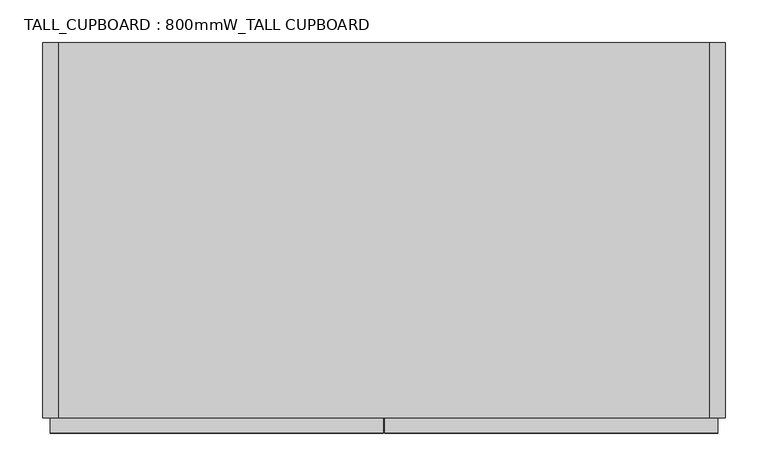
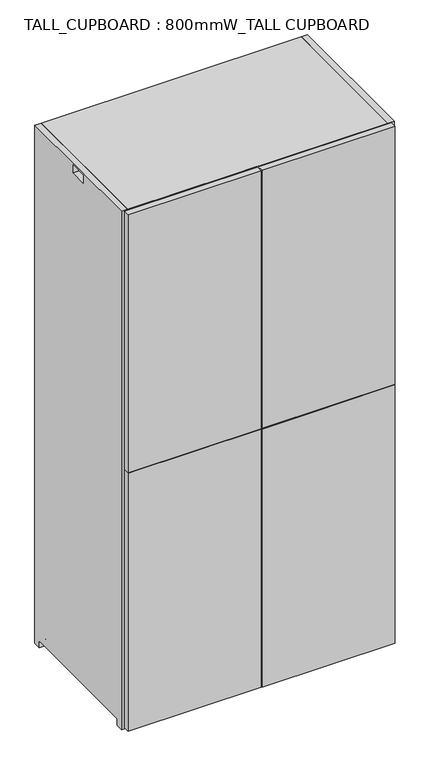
"""IFC4 building model written with IfcOpenShell, lengths in millimetres: furniture geometry, TALL_CUPBOARD : 800mmW_TALL CUPBOARD."""

from ifc_helpers import new_model, si_unit, point, frame, frame_2d, origin, place, context, project, spatial, polyline, circle_curve, trimmed, segment, composite_curve, outline, extrude, source, transform, mapped, element, save
from ifc_brep_helpers import plane_surface, revolved_surface, advanced_brep


def tall_cupboard_800mmw_tall_cupboard_b3f6e6b7(model_context):
    return source(origin(), model_context, "Body", "SolidModel", [
        extrude(outline(composite_curve([segment(polyline([(-220.0, 1605.0), (220.0, 1605.0), (220.0, 0.0), (198.0, 0.0), (198.0, 17.0)]), True, "CONTINUOUS"), segment(trimmed(circle_curve(frame_2d((194.0, 17.0)), 4.0), [point((198.0, 17.0))], [point((194.0, 21.0))], True, "CARTESIAN"), True, "CONTINUOUS"), segment(polyline([(194.0, 21.0), (-194.0, 21.0)]), True, "CONTINUOUS"), segment(trimmed(circle_curve(frame_2d((-194.0, 17.0)), 4.0), [point((-194.0, 21.0))], [point((-198.0, 17.0))], True, "CARTESIAN"), True, "CONTINUOUS"), segment(polyline([(-198.0, 17.0), (-198.0, 0.0), (-220.0, 0.0), (-220.0, 1605.0)]), True, "CONTINUOUS")], self_intersect=False), holes=[polyline([(-26.0, 1600.0), (-26.0, 1575.0), (26.0, 1575.0), (26.0, 1600.0), (-26.0, 1600.0)])]), frame((-400.0, 0.0, 0.0), z_axis=(1.0, 0.0, 0.0), x_axis=(0.0, 1.0, 0.0)), (0.0, 0.0, 1.0), 18.0),
        advanced_brep(
        [(382.0, 220.0, 18.0), (-382.0, 220.0, 18.0), (-382.0, 197.8729833, 18.0), (-376.1019215, 197.8729833, 18.0), (-376.1019215, -197.8729833, 18.0), (-382.0, -197.8729833, 18.0), (-382.0, -220.0, 18.0), (382.0, -220.0, 18.0), (382.0, 220.0, 0.0), (382.0, -220.0, 0.0), (-382.0, -220.0, 0.0), (-382.0, -198.0, 0.0), (-376.1019215, -198.0, 0.0), (-376.1019215, 198.0, 0.0), (-382.0, 198.0, 0.0), (-382.0, 220.0, 0.0), (-382.0, 198.0, 17.0), (-382.0, -198.0, 17.0), (-376.1019215, 198.0, 17.0), (-376.1019215, -198.0, 17.0)],
        [
            (0, 1),
            (1, 2),
            (2, 3),
            (3, 4),
            (4, 5),
            (5, 6),
            (6, 7),
            (7, 0),
            (8, 9),
            (9, 10),
            (10, 11),
            (11, 12),
            (12, 13),
            (13, 14),
            (14, 15),
            (15, 8),
            (0, 8),
            (15, 1),
            (14, 16),
            (16, 2, circle_curve(frame((-382.0, 194.0, 17.0), z_axis=(1.0, 0.0, 0.0), x_axis=(0.0, 1.0, 0.0)), 4.0)),
            (10, 6),
            (5, 17, circle_curve(frame((-382.0, -194.0, 17.0), z_axis=(1.0, 0.0, 0.0), x_axis=(0.0, 1.0, 0.0)), 4.0)),
            (17, 11),
            (9, 7),
            (18, 13),
            (12, 19),
            (19, 4, circle_curve(frame((-376.1019215, -194.0, 17.0), z_axis=(-1.0, 0.0, 0.0), x_axis=(0.0, 1.0, 0.0)), 4.0)),
            (3, 18, circle_curve(frame((-376.1019215, 194.0, 17.0), z_axis=(-1.0, 0.0, 0.0), x_axis=(0.0, 1.0, 0.0)), 4.0)),
            (19, 17),
            (18, 16),
        ],
        [
            plane_surface(frame((-382.0, 220.0, 18.0), z_axis=(0.0, 0.0, 1.0), x_axis=(-1.0, 0.0, 0.0))),
            plane_surface(frame((-382.0, 220.0, 0.0), z_axis=(0.0, 0.0, -1.0), x_axis=(1.0, 0.0, 0.0))),
            plane_surface(frame((382.0, 220.0, 18.0), z_axis=(0.0, 1.0, 0.0), x_axis=(0.0, 0.0, -1.0))),
            plane_surface(frame((-382.0, 220.0, 18.0), z_axis=(-1.0, 0.0, 0.0), x_axis=(0.0, 0.0, -1.0))),
            plane_surface(frame((-382.0, -220.0, 18.0), z_axis=(0.0, -1.0, 0.0), x_axis=(0.0, 0.0, -1.0))),
            plane_surface(frame((382.0, -220.0, 18.0), z_axis=(1.0, 0.0, 0.0), x_axis=(0.0, 0.0, -1.0))),
            plane_surface(frame((-376.1019215, -190.0, 17.0), z_axis=(-1.0, 0.0, 0.0), x_axis=(0.0, 0.0, 1.0))),
            revolved_surface(polyline([(-376.1019215, -190.0, 17.0), (-382.0, -190.0, 17.0)]), (-406.0458228, -194.0, 17.0), (1.0, 0.0, 0.0)),
            plane_surface(frame((-376.1019215, -198.0, 17.0), z_axis=(0.0, 1.0, 0.0), x_axis=(-1.0, 0.0, 0.0))),
            plane_surface(frame((-376.1019215, 198.0, 0.0), z_axis=(0.0, -1.0, 0.0), x_axis=(-1.0, 0.0, 0.0))),
            revolved_surface(polyline([(-376.1019215, 198.0, 17.0), (-382.0, 198.0, 17.0)]), (-406.0458228, 194.0, 17.0), (1.0, 0.0, 0.0)),
        ],
        [
            (0, [[1, 2, 3, 4, 5, 6, 7, 8]]),
            (1, [[9, 10, 11, 12, 13, 14, 15, 16]]),
            (2, [[-1, 17, -16, 18]]),
            (3, [[-18, -15, 19, 20, -2]]),
            (3, [[21, -6, 22, 23, -11]]),
            (4, [[-7, -21, -10, 24]]),
            (5, [[-8, -24, -9, -17]]),
            (6, [[25, -13, 26, 27, -4, 28]]),
            (7, [[-27, 29, -22, -5]]),
            (8, [[-26, -12, -23, -29]]),
            (9, [[-25, 30, -19, -14]]),
            (10, [[-28, -3, -20, -30]]),
        ],
    ),
        extrude(outline(composite_curve([segment(polyline([(-220.0, 1605.0), (220.0, 1605.0), (220.0, 0.0), (198.0, 0.0), (198.0, 17.0)]), True, "CONTINUOUS"), segment(trimmed(circle_curve(frame_2d((194.0, 17.0)), 4.0), [point((198.0, 17.0))], [point((194.0, 21.0))], True, "CARTESIAN"), True, "CONTINUOUS"), segment(polyline([(194.0, 21.0), (-194.0, 21.0)]), True, "CONTINUOUS"), segment(trimmed(circle_curve(frame_2d((-194.0, 17.0)), 4.0), [point((-194.0, 21.0))], [point((-198.0, 17.0))], True, "CARTESIAN"), True, "CONTINUOUS"), segment(polyline([(-198.0, 17.0), (-198.0, 0.0), (-220.0, 0.0), (-220.0, 1605.0)]), True, "CONTINUOUS")], self_intersect=False), holes=[polyline([(-26.0, 1600.0), (-26.0, 1575.0), (26.0, 1575.0), (26.0, 1600.0), (-26.0, 1600.0)])]), frame((382.0, 0.0, 0.0), z_axis=(1.0, 0.0, 0.0), x_axis=(0.0, 1.0, 0.0)), (0.0, 0.0, 1.0), 18.0),
        extrude(outline(polyline([(382.0, 220.0), (382.0, 202.0), (-382.0, 202.0), (-382.0, 220.0), (382.0, 220.0)])), frame((0.0, 0.0, 18.0), z_axis=(0.0, 0.0, 1.0), x_axis=(1.0, 0.0, 0.0)), (0.0, 0.0, 1.0), 1569.0),
        extrude(outline(polyline([(382.0, 202.0), (382.0, -220.0), (-382.0, -220.0), (-382.0, 202.0), (382.0, 202.0)])), frame((0.0, 0.0, 398.5), z_axis=(0.0, 0.0, 1.0), x_axis=(1.0, 0.0, 0.0)), (0.0, 0.0, 1.0), 18.0),
        extrude(outline(polyline([(382.0, 202.0), (382.0, -220.0), (-382.0, -220.0), (-382.0, 202.0), (382.0, 202.0)])), frame((0.0, 0.0, 793.5), z_axis=(0.0, 0.0, 1.0), x_axis=(1.0, 0.0, 0.0)), (0.0, 0.0, 1.0), 18.0),
        extrude(outline(polyline([(382.0, 202.0), (382.0, -220.0), (-382.0, -220.0), (-382.0, 202.0), (382.0, 202.0)])), frame((0.0, 0.0, 1188.5), z_axis=(0.0, 0.0, 1.0), x_axis=(1.0, 0.0, 0.0)), (0.0, 0.0, 1.0), 18.0),
        extrude(outline(polyline([(382.0, 220.0), (382.0, -220.0), (-382.0, -220.0), (-382.0, 220.0), (382.0, 220.0)])), frame((0.0, 0.0, 1587.0), z_axis=(0.0, 0.0, 1.0), x_axis=(1.0, 0.0, 0.0)), (0.0, 0.0, 1.0), 18.0),
        extrude(outline(polyline([(9.0, 202.0), (9.0, -220.0), (-9.0, -220.0), (-9.0, 202.0), (9.0, 202.0)])), frame((0.0, 0.0, 18.0), z_axis=(0.0, 0.0, 1.0), x_axis=(1.0, 0.0, 0.0)), (0.0, 0.0, 1.0), 1569.0),
        extrude(outline(polyline([(391.0, -220.0), (391.0, -238.0), (1.0, -238.0), (1.0, -220.0), (391.0, -220.0)])), frame((0.0, 0.0, 2.0), z_axis=(0.0, 0.0, 1.0), x_axis=(1.0, 0.0, 0.0)), (0.0, 0.0, 1.0), 799.5),
        extrude(outline(polyline([(391.0, -220.0), (391.0, -238.0), (1.0, -238.0), (1.0, -220.0), (391.0, -220.0)])), frame((0.0, 0.0, 803.5), z_axis=(0.0, 0.0, 1.0), x_axis=(1.0, 0.0, 0.0)), (0.0, 0.0, 1.0), 799.5),
        extrude(outline(polyline([(-391.0, -220.0), (-1.0, -220.0), (-1.0, -238.0), (-391.0, -238.0), (-391.0, -220.0)])), frame((0.0, 0.0, 2.0), z_axis=(0.0, 0.0, 1.0), x_axis=(1.0, 0.0, 0.0)), (0.0, 0.0, 1.0), 799.5),
        extrude(outline(polyline([(-391.0, -220.0), (-1.0, -220.0), (-1.0, -238.0), (-391.0, -238.0), (-391.0, -220.0)])), frame((0.0, 0.0, 803.5), z_axis=(0.0, 0.0, 1.0), x_axis=(1.0, 0.0, 0.0)), (0.0, 0.0, 1.0), 799.5),
    ])


if __name__ == "__main__":
    model = new_model("IFC4")
    model_context = context("Model", 3, world=origin())
    ifc_project = project(units=[si_unit("LENGTHUNIT", "METRE", prefix="MILLI")], contexts=[model_context])
    site = spatial("IfcSite", under=ifc_project)
    building = spatial("IfcBuilding", under=site)
    placement = place(None, origin())
    tall_cupboard_800mmw_tall_cupboard_shape = tall_cupboard_800mmw_tall_cupboard_b3f6e6b7(model_context)
    element("IfcFurniture", 1, ObjectType="TALL_CUPBOARD : 800mmW_TALL CUPBOARD", at=placement, inside=building, context=model_context, shape_type="MappedRepresentation", body=[
        mapped(tall_cupboard_800mmw_tall_cupboard_shape, transform((0.0, 0.0, 0.0), x_axis=(1.0, 0.0, 0.0), y_axis=(0.0, 1.0, 0.0), z_axis=(0.0, 0.0, 1.0))),
    ])
    save(model, "model.ifc")
